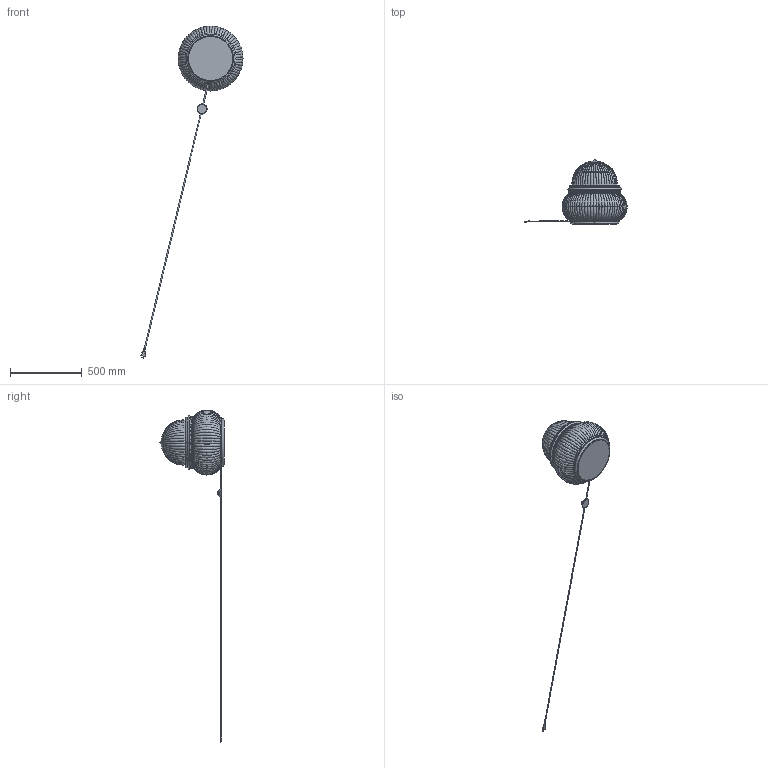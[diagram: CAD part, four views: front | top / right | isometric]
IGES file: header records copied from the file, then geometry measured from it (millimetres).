
Start section: SolidWorks IGES file using analytic representation for surfaces
Global section: file name: C:\Users\cma\OneDrive - GUBI\Desktop\Lights\Crespi_Milan_Takumi\Assembly_Istruction\Crespi lamp  3D_20210910.IGS; native system: SolidWorks 2021; preprocessor: SolidWorks 2021; author: cma; date: 211217.112106; units: millimetre
Bounding box: 710.7 x 446.94 x 2307.02 mm (x, y, z)
Surface area: 2294420.2 mm2 (no closed solid volume)
Topology: 0 solids, 0 shells, 1277 faces, 15625 edges, 15619 vertices
Faces by surface type: bspline 1101, revolution 176
